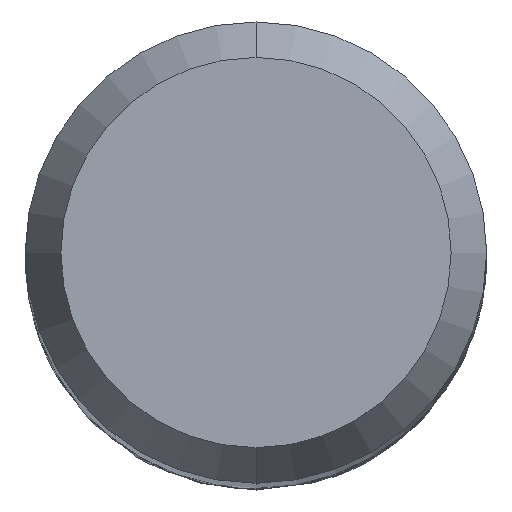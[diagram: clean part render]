
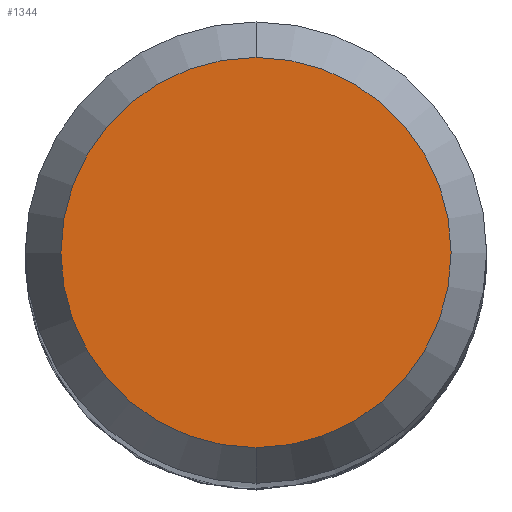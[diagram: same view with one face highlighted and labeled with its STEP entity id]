
A CAD part, top view. The second image highlights one B-rep face of the part: STEP entity #1344.
In plain terms, the highlighted planar face has unit normal (0, 0, 1).
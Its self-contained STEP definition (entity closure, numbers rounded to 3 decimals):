
#868=VERTEX_POINT('',#2104);
#876=EDGE_CURVE('',#868,#1150,#2113,.T.);
#1116=EDGE_CURVE('',#1150,#868,#2372,.T.);
#1150=VERTEX_POINT('',#2408);
#1344=ADVANCED_FACE('',(#2622),#2623,.T.);
#2104=CARTESIAN_POINT('',(0.0,2.538,0.0));
#2113=CIRCLE('',#5200,2.538);
#2372=CIRCLE('',#7454,2.538);
#2408=CARTESIAN_POINT('',(0.,-2.538,0.0));
#2622=FACE_OUTER_BOUND('',#9085,.T.);
#2623=PLANE('',#9086);
#5200=AXIS2_PLACEMENT_3D('',#13507,#13508,#13509);
#7454=AXIS2_PLACEMENT_3D('',#13735,#13736,#13737);
#9085=EDGE_LOOP('',(#13976,#13977));
#9086=AXIS2_PLACEMENT_3D('',#13978,#13979,#13980);
#13507=CARTESIAN_POINT('',(0.0,0.0,0.0));
#13508=DIRECTION('',(0.0,0.0,-1.0));
#13509=DIRECTION('',(0.0,1.0,0.0));
#13735=CARTESIAN_POINT('',(0.0,0.0,0.0));
#13736=DIRECTION('',(0.0,0.0,-1.0));
#13737=DIRECTION('',(0.0,1.0,0.0));
#13976=ORIENTED_EDGE('',*,*,#876,.F.);
#13977=ORIENTED_EDGE('',*,*,#1116,.F.);
#13978=CARTESIAN_POINT('',(0.0,1.269,0.0));
#13979=DIRECTION('',(-0.0,0.0,1.0));
#13980=DIRECTION('',(0.0,-1.0,0.0));
